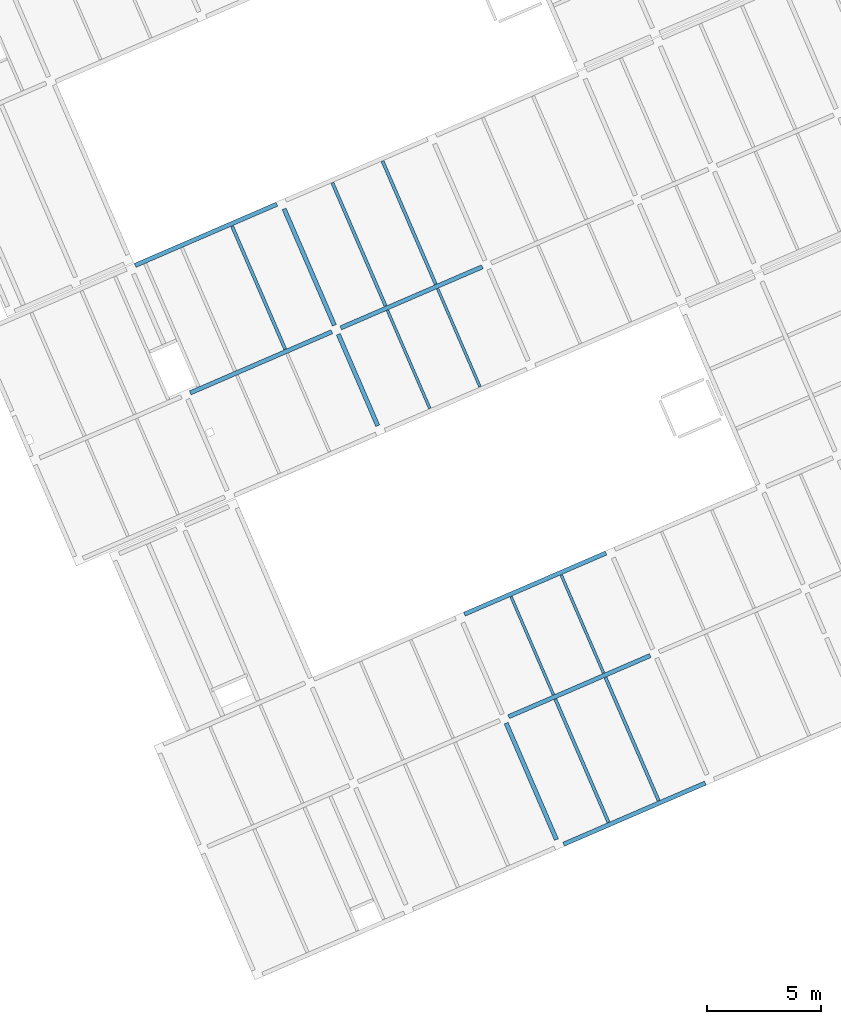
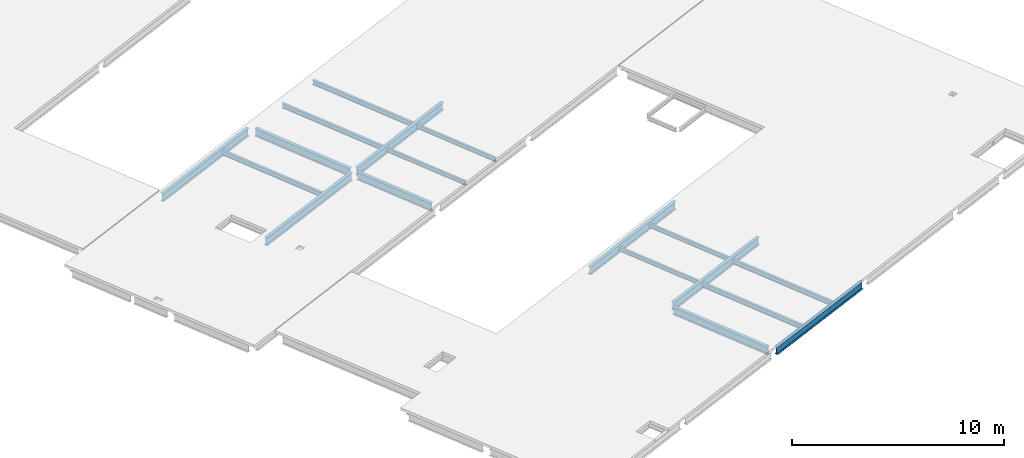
# One storey, part 4 of 15: 18 beams.
"""IFC4 building model written with IfcOpenShell, lengths in metres."""

from ifc_helpers import new_model, entity, si_unit, converted_unit, derived_unit, direction, frame, origin, place, context, subcontext, project, spatial, line, arc, indexed_curve, outline, extrude, source, transform, mapped, material, type_object, type_shapes, element, save


model = new_model("IFC4")

# Units and contexts
model_context = context("Model", 3, precision=1e-05, world=origin(), true_north=direction((6.12323399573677e-17, 1.0)))
body_context = subcontext(model_context, "Body", "Model", "MODEL_VIEW")
ifc_project = project(units=[si_unit("LENGTHUNIT", "METRE"), si_unit("AREAUNIT", "SQUARE_METRE"), si_unit("VOLUMEUNIT", "CUBIC_METRE"), converted_unit("PLANEANGLEUNIT", "DEGREE", entity("IfcPlaneAngleMeasure", 0.0174532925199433), si_unit("PLANEANGLEUNIT", "RADIAN"), dimensions=[0, 0, 0, 0, 0, 0, 0]), si_unit("MASSUNIT", "GRAM", prefix="KILO"), derived_unit("MOMENTOFINERTIAUNIT", [(si_unit("LENGTHUNIT", "METRE"), 4)]), derived_unit("LINEARFORCEUNIT", [(si_unit("MASSUNIT", "GRAM", prefix="KILO"), 1), (si_unit("TIMEUNIT", "SECOND"), -2)]), derived_unit("WARPINGCONSTANTUNIT", [(si_unit("LENGTHUNIT", "METRE"), 6)]), derived_unit("THERMALTRANSMITTANCEUNIT", [(si_unit("MASSUNIT", "GRAM", prefix="KILO"), 1), (si_unit("THERMODYNAMICTEMPERATUREUNIT", "KELVIN"), -1), (si_unit("TIMEUNIT", "SECOND"), -3)]), derived_unit("USERDEFINED", [(si_unit("MASSUNIT", "GRAM", prefix="KILO"), 1), (si_unit("TIMEUNIT", "SECOND"), -2), (si_unit("THERMODYNAMICTEMPERATUREUNIT", "KELVIN"), -1)]), derived_unit("THERMALRESISTANCEUNIT", [(si_unit("MASSUNIT", "GRAM", prefix="KILO"), -1), (si_unit("TIMEUNIT", "SECOND"), 3), (si_unit("THERMODYNAMICTEMPERATUREUNIT", "KELVIN"), 1)])], contexts=[model_context])

# Site, building, storey
site_placement = place(None, origin())
site = spatial("IfcSite", under=ifc_project, at=site_placement, Name="Default", CompositionType="ELEMENT")
building_placement = place(site_placement, frame((12.6613425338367, -82.5732315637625, 317.15), z_axis=(0.0, 0.0, 1.0), x_axis=(-0.396377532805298, 0.918087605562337, 0.0)))
building = spatial("IfcBuilding", under=site, at=building_placement, Name="CESFAM Coyhaique", CompositionType="ELEMENT")
storey_placement = place(building_placement, frame((0.0, 0.0, 8.45000000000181)))
storey = spatial("IfcBuildingStorey", under=building, at=storey_placement, Name="Nivel 3", CompositionType="ELEMENT", Elevation=8.45000000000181)

# Beams
ifc_material = material(Name="Steel, 45-345", Category="Metal")
beam_type_1 = type_object("IfcBeamType", Name="M_W Shapes:W450X190mm", PredefinedType="BEAM", material=ifc_material)
shared_shape_1 = source(origin(), body_context, "Body", "SweptSolid", [
    extrude(outline(indexed_curve([(-0.224999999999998, -0.0950000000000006), (-0.215349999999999, -0.0950000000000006), (-0.215349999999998, -0.0105700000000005), (-0.213109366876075, -0.00516063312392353), (-0.207699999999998, -0.00292000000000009), (0.207700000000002, -0.00292000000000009), (0.213109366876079, -0.00516063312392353), (0.215350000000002, -0.0105700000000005), (0.215350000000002, -0.0950000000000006), (0.225000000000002, -0.0950000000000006), (0.225000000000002, 0.0950000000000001), (0.215350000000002, 0.0950000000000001), (0.215350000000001, 0.01057), (0.213109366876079, 0.00516063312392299), (0.207700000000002, 0.00291999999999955), (-0.207699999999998, 0.00292000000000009), (-0.213109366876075, 0.00516063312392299), (-0.215349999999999, 0.01057), (-0.215349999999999, 0.094999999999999), (-0.224999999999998, 0.094999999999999)], segments=[line(1, 2, 3), arc(3, 4, 5), line(5, 6), arc(6, 7, 8), line(8, 9, 10, 11, 12, 13), arc(13, 14, 15), line(15, 16), arc(16, 17, 18), line(18, 19, 20, 1)], self_intersect=False)), frame((4.38155341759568, 2.8028504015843, 8.07500000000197), z_axis=(1.0, 0.0, 0.0), x_axis=(0.0, 0.0, -1.0)), (0.0, 0.0, 1.0), 5.5746),
])
type_shapes(beam_type_1, [shared_shape_1])
beam_1_placement = place(storey_placement, frame((0.0, 0.0, -8.45000000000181)))
element("IfcBeam", 1, at=beam_1_placement, inside=storey, type_object=beam_type_1, Name="M_W Shapes:W450X190mm", ObjectType="M_W Shapes:W450X190mm", PredefinedType="BEAM", context=body_context, shape_type="MappedRepresentation", body=[
    mapped(shared_shape_1, transform((0.0, 0.0, 0.0), scale=1.0)),
])
beam_type_2 = type_object("IfcBeamType", Name="M_W Shapes:W450X190mm", PredefinedType="BEAM", material=ifc_material)
shared_shape_2 = source(origin(), body_context, "Body", "SweptSolid", [
    extrude(outline(indexed_curve([(-0.0950000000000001, -0.225000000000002), (0.0950000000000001, -0.225000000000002), (0.0950000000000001, -0.215350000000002), (0.0105699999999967, -0.215350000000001), (0.00516063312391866, -0.21310936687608), (0.00291999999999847, -0.207700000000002), (0.00291999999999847, 0.207699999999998), (0.00516063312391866, 0.213109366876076), (0.0105700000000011, 0.215349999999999), (0.0950000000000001, 0.215349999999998), (0.0950000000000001, 0.224999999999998), (-0.0950000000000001, 0.224999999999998), (-0.0950000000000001, 0.215349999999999), (-0.0105700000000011, 0.215349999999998), (-0.00516063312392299, 0.213109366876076), (-0.0029200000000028, 0.207699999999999), (-0.0029200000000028, -0.207700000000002), (-0.00516063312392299, -0.21310936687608), (-0.0105700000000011, -0.215350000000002), (-0.0950000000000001, -0.215350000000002)], segments=[line(1, 2, 3, 4), arc(4, 5, 6), line(6, 7), arc(7, 8, 9), line(9, 10, 11, 12, 13, 14), arc(14, 15, 16), line(16, 17), arc(17, 18, 19), line(19, 20, 1)], self_intersect=False)), frame((28.7688534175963, 3.0155504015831, 8.07500000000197), z_axis=(0.0, 1.0, 0.0), x_axis=(-1.0, 0.0, 0.0)), (0.0, 0.0, 1.0), 6.7746),
])
type_shapes(beam_type_2, [shared_shape_2])
beam_2_placement = place(storey_placement, frame((0.0, 0.0, -8.45000000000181)))
element("IfcBeam", 2, at=beam_2_placement, inside=storey, type_object=beam_type_2, Name="M_W Shapes:W450X190mm", ObjectType="M_W Shapes:W450X190mm", PredefinedType="BEAM", context=body_context, shape_type="MappedRepresentation", body=[
    mapped(shared_shape_2, transform((0.0, 0.0, 0.0), scale=1.0)),
])
beam_type_3 = type_object("IfcBeamType", Name="M_W Shapes:W450X190mm", PredefinedType="BEAM", material=ifc_material)
shared_shape_3 = source(origin(), body_context, "Body", "SweptSolid", [
    extrude(outline(indexed_curve([(-0.0950000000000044, -0.225000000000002), (0.0949999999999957, -0.225000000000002), (0.0949999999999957, -0.215350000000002), (0.0105699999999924, -0.215350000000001), (0.00516063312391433, -0.21310936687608), (0.00291999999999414, -0.207700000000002), (0.00291999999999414, 0.207699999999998), (0.00516063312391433, 0.213109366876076), (0.0105699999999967, 0.215349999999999), (0.0949999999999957, 0.215349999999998), (0.0949999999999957, 0.224999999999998), (-0.0950000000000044, 0.224999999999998), (-0.0950000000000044, 0.215349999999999), (-0.0105700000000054, 0.215349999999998), (-0.00516063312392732, 0.213109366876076), (-0.00292000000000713, 0.207699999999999), (-0.00292000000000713, -0.207700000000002), (-0.00516063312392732, -0.21310936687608), (-0.0105700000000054, -0.215350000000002), (-0.0950000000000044, -0.215350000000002)], segments=[line(1, 2, 3, 4), arc(4, 5, 6), line(6, 7), arc(7, 8, 9), line(9, 10, 11, 12, 13, 14), arc(14, 15, 16), line(16, 17), arc(17, 18, 19), line(19, 20, 1)], self_intersect=False)), frame((34.868853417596, 3.0155504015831, 8.07500000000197), z_axis=(0.0, 1.0, 0.0), x_axis=(-1.0, 0.0, 0.0)), (0.0, 0.0, 1.0), 6.7746),
])
type_shapes(beam_type_3, [shared_shape_3])
beam_3_placement = place(storey_placement, frame((0.0, 0.0, -8.45000000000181)))
element("IfcBeam", 3, at=beam_3_placement, inside=storey, type_object=beam_type_3, Name="M_W Shapes:W450X190mm", ObjectType="M_W Shapes:W450X190mm", PredefinedType="BEAM", context=body_context, shape_type="MappedRepresentation", body=[
    mapped(shared_shape_3, transform((0.0, 0.0, 0.0), scale=1.0)),
])
beam_type_4 = type_object("IfcBeamType", Name="M_W Shapes:W450X190mm", PredefinedType="BEAM", material=ifc_material)
shared_shape_4 = source(origin(), body_context, "Body", "SweptSolid", [
    extrude(outline(indexed_curve([(-0.224999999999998, -0.0950000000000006), (-0.215349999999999, -0.0950000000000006), (-0.215349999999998, -0.0105700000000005), (-0.213109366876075, -0.00516063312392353), (-0.207699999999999, -0.00292000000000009), (0.207700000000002, -0.00292000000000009), (0.213109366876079, -0.00516063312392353), (0.215350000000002, -0.0105700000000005), (0.215350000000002, -0.0950000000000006), (0.225000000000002, -0.0950000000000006), (0.225000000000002, 0.0950000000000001), (0.215350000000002, 0.0950000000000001), (0.215350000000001, 0.01057), (0.213109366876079, 0.00516063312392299), (0.207700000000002, 0.00291999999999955), (-0.207699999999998, 0.00291999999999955), (-0.213109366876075, 0.00516063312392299), (-0.215349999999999, 0.01057), (-0.215349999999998, 0.094999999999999), (-0.224999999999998, 0.0949999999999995)], segments=[line(1, 2, 3), arc(3, 4, 5), line(5, 6), arc(6, 7, 8), line(8, 9, 10, 11, 12, 13), arc(13, 14, 15), line(15, 16), arc(16, 17, 18), line(18, 19, 20, 1)], self_intersect=False)), frame((24.1815534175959, 2.8028504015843, 8.07500000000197), z_axis=(1.0, 0.0, 0.0), x_axis=(0.0, 0.0, -1.0)), (0.0, 0.0, 1.0), 4.3746),
])
type_shapes(beam_type_4, [shared_shape_4])
beam_4_placement = place(storey_placement, frame((0.0, 0.0, -8.45000000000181)))
element("IfcBeam", 4, at=beam_4_placement, inside=storey, type_object=beam_type_4, Name="M_W Shapes:W450X190mm", ObjectType="M_W Shapes:W450X190mm", PredefinedType="BEAM", context=body_context, shape_type="MappedRepresentation", body=[
    mapped(shared_shape_4, transform((0.0, 0.0, 0.0), scale=1.0)),
])
beam_type_5 = type_object("IfcBeamType", Name="M_W Shapes:W450X190mm", PredefinedType="BEAM", material=ifc_material)
shared_shape_5 = source(origin(), body_context, "Body", "SweptSolid", [
    extrude(outline(indexed_curve([(-0.0950000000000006, -0.225000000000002), (0.0950000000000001, -0.225000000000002), (0.0950000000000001, -0.215350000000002), (0.01057, -0.215350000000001), (0.00516063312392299, -0.213109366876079), (0.00291999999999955, -0.207700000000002), (0.00291999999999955, 0.207699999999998), (0.00516063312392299, 0.213109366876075), (0.01057, 0.215349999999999), (0.094999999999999, 0.215349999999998), (0.0949999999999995, 0.224999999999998), (-0.0950000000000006, 0.224999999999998), (-0.0950000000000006, 0.215349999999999), (-0.0105700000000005, 0.215349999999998), (-0.00516063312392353, 0.213109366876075), (-0.00292000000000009, 0.207699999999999), (-0.00292000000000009, -0.207700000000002), (-0.00516063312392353, -0.213109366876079), (-0.0105700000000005, -0.215350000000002), (-0.0950000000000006, -0.215350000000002)], segments=[line(1, 2, 3, 4), arc(4, 5, 6), line(6, 7), arc(7, 8, 9), line(9, 10, 11, 12, 13, 14), arc(14, 15, 16), line(16, 17), arc(17, 18, 19), line(19, 20, 1)], self_intersect=False)), frame((4.06885341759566, -4.18444959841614, 8.07500000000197), z_axis=(0.0, 1.0, 0.0), x_axis=(-1.0, 0.0, 0.0)), (0.0, 0.0, 1.0), 6.7746),
])
type_shapes(beam_type_5, [shared_shape_5])
beam_5_placement = place(storey_placement, frame((0.0, 0.0, -8.45000000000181)))
element("IfcBeam", 5, at=beam_5_placement, inside=storey, type_object=beam_type_5, Name="M_W Shapes:W450X190mm", ObjectType="M_W Shapes:W450X190mm", PredefinedType="BEAM", context=body_context, shape_type="MappedRepresentation", body=[
    mapped(shared_shape_5, transform((0.0, 0.0, 0.0), scale=1.0)),
])
beam_type_6 = type_object("IfcBeamType", Name="M_W Shapes:W450X190mm", PredefinedType="BEAM", material=ifc_material)
shared_shape_6 = source(origin(), body_context, "Body", "SweptSolid", [
    extrude(outline(indexed_curve([(-0.0950000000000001, -0.225000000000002), (0.0950000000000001, -0.225000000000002), (0.0950000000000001, -0.215350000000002), (0.0105700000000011, -0.215350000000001), (0.00516063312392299, -0.213109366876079), (0.00292000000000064, -0.207700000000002), (0.00292000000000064, 0.207699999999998), (0.00516063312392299, 0.213109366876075), (0.0105700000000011, 0.215349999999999), (0.0950000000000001, 0.215349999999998), (0.0950000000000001, 0.224999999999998), (-0.0950000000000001, 0.224999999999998), (-0.0949999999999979, 0.215349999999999), (-0.0105699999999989, 0.215349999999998), (-0.00516063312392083, 0.213109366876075), (-0.00291999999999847, 0.207699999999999), (-0.00291999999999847, -0.207700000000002), (-0.00516063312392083, -0.213109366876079), (-0.0105699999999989, -0.215350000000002), (-0.0950000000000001, -0.215350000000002)], segments=[line(1, 2, 3, 4), arc(4, 5, 6), line(6, 7), arc(7, 8, 9), line(9, 10, 11, 12, 13, 14), arc(14, 15, 16), line(16, 17), arc(17, 18, 19), line(19, 20, 1)], self_intersect=False)), frame((10.1688534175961, -4.18444959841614, 8.07500000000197), z_axis=(0.0, 1.0, 0.0), x_axis=(-1.0, 0.0, 0.0)), (0.0, 0.0, 1.0), 6.7746),
])
type_shapes(beam_type_6, [shared_shape_6])
beam_6_placement = place(storey_placement, frame((0.0, 0.0, -8.45000000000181)))
element("IfcBeam", 6, at=beam_6_placement, inside=storey, type_object=beam_type_6, Name="M_W Shapes:W450X190mm", ObjectType="M_W Shapes:W450X190mm", PredefinedType="BEAM", context=body_context, shape_type="MappedRepresentation", body=[
    mapped(shared_shape_6, transform((0.0, 0.0, 0.0), scale=1.0)),
])
beam_type_7 = type_object("IfcBeamType", Name="M_W Shapes:W450X190mm", PredefinedType="BEAM", material=ifc_material)
shared_shape_7 = source(origin(), body_context, "Body", "SweptSolid", [
    extrude(outline(indexed_curve([(-0.0950000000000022, -0.225000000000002), (0.0949999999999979, -0.225000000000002), (0.0949999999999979, -0.215350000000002), (0.0105699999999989, -0.215350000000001), (0.00516063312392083, -0.213109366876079), (0.00291999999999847, -0.207700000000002), (0.00291999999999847, 0.207699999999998), (0.00516063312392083, 0.213109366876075), (0.0105699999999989, 0.215349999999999), (0.0949999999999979, 0.215349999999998), (0.0949999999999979, 0.224999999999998), (-0.0950000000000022, 0.224999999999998), (-0.0950000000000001, 0.215349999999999), (-0.0105700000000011, 0.215349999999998), (-0.00516063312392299, 0.213109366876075), (-0.00292000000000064, 0.207699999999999), (-0.00292000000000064, -0.207700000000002), (-0.00516063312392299, -0.213109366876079), (-0.0105700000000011, -0.215350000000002), (-0.0950000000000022, -0.215350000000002)], segments=[line(1, 2, 3, 4), arc(4, 5, 6), line(6, 7), arc(7, 8, 9), line(9, 10, 11, 12, 13, 14), arc(14, 15, 16), line(16, 17), arc(17, 18, 19), line(19, 20, 1)], self_intersect=False)), frame((15.0738534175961, -4.18444959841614, 8.07500000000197), z_axis=(0.0, 1.0, 0.0), x_axis=(-1.0, 0.0, 0.0)), (0.0, 0.0, 1.0), 6.7746),
])
type_shapes(beam_type_7, [shared_shape_7])
beam_7_placement = place(storey_placement, frame((0.0, 0.0, -8.45000000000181)))
element("IfcBeam", 7, at=beam_7_placement, inside=storey, type_object=beam_type_7, Name="M_W Shapes:W450X190mm", ObjectType="M_W Shapes:W450X190mm", PredefinedType="BEAM", context=body_context, shape_type="MappedRepresentation", body=[
    mapped(shared_shape_7, transform((0.0, 0.0, 0.0), scale=1.0)),
])
beam_type_8 = type_object("IfcBeamType", Name="M_W Shapes:W450X190mm", PredefinedType="BEAM", material=ifc_material)
shared_shape_8 = source(origin(), body_context, "Body", "SweptSolid", [
    extrude(outline(indexed_curve([(-0.0950000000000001, -0.225000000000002), (0.0950000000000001, -0.225000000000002), (0.0950000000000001, -0.215350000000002), (0.0105699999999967, -0.215350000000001), (0.00516063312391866, -0.21310936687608), (0.00291999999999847, -0.207700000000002), (0.00291999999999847, 0.207699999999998), (0.00516063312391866, 0.213109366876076), (0.0105700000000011, 0.215349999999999), (0.0950000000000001, 0.215349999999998), (0.0950000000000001, 0.224999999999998), (-0.0950000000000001, 0.224999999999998), (-0.0950000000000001, 0.215349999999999), (-0.0105700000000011, 0.215349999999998), (-0.00516063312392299, 0.213109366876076), (-0.0029200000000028, 0.207699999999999), (-0.0029200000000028, -0.207700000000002), (-0.00516063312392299, -0.21310936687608), (-0.0105700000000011, -0.215350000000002), (-0.0950000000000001, -0.215350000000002)], segments=[line(1, 2, 3, 4), arc(4, 5, 6), line(6, 7), arc(7, 8, 9), line(9, 10, 11, 12, 13, 14), arc(14, 15, 16), line(16, 17), arc(17, 18, 19), line(19, 20, 1)], self_intersect=False)), frame((28.7688534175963, -4.18444959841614, 8.07500000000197), z_axis=(0.0, 1.0, 0.0), x_axis=(-1.0, 0.0, 0.0)), (0.0, 0.0, 1.0), 6.7746),
])
type_shapes(beam_type_8, [shared_shape_8])
beam_8_placement = place(storey_placement, frame((0.0, 0.0, -8.45000000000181)))
element("IfcBeam", 8, at=beam_8_placement, inside=storey, type_object=beam_type_8, Name="M_W Shapes:W450X190mm", ObjectType="M_W Shapes:W450X190mm", PredefinedType="BEAM", context=body_context, shape_type="MappedRepresentation", body=[
    mapped(shared_shape_8, transform((0.0, 0.0, 0.0), scale=1.0)),
])
beam_type_9 = type_object("IfcBeamType", Name="M_W Shapes:W450X190mm", PredefinedType="BEAM", material=ifc_material)
shared_shape_9 = source(origin(), body_context, "Body", "SweptSolid", [
    extrude(outline(indexed_curve([(-0.224999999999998, -0.0950000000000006), (-0.215349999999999, -0.0950000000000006), (-0.215349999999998, -0.0105700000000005), (-0.213109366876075, -0.00516063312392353), (-0.207699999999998, -0.00292000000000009), (0.207700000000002, -0.00292000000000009), (0.213109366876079, -0.00516063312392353), (0.215350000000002, -0.0105700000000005), (0.215350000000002, -0.0950000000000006), (0.225000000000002, -0.0950000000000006), (0.225000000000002, 0.0950000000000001), (0.215350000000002, 0.0950000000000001), (0.215350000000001, 0.01057), (0.213109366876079, 0.00516063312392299), (0.207700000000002, 0.00291999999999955), (-0.207699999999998, 0.00292000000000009), (-0.213109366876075, 0.00516063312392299), (-0.215349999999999, 0.01057), (-0.215349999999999, 0.094999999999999), (-0.224999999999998, 0.094999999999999)], segments=[line(1, 2, 3), arc(3, 4, 5), line(5, 6), arc(6, 7, 8), line(8, 9, 10, 11, 12, 13), arc(13, 14, 15), line(15, 16), arc(16, 17, 18), line(18, 19, 20, 1)], self_intersect=False)), frame((28.981553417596, 2.8028504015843, 8.07500000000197), z_axis=(1.0, 0.0, 0.0), x_axis=(0.0, 0.0, -1.0)), (0.0, 0.0, 1.0), 5.5746),
])
type_shapes(beam_type_9, [shared_shape_9])
beam_9_placement = place(storey_placement, frame((0.0, 0.0, -8.45000000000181)))
element("IfcBeam", 9, at=beam_9_placement, inside=storey, type_object=beam_type_9, Name="M_W Shapes:W450X190mm", ObjectType="M_W Shapes:W450X190mm", PredefinedType="BEAM", context=body_context, shape_type="MappedRepresentation", body=[
    mapped(shared_shape_9, transform((0.0, 0.0, 0.0), scale=1.0)),
])
beam_type_10 = type_object("IfcBeamType", Name="M_W Shapes:W270X140mm", PredefinedType="BEAM", material=ifc_material)
shared_shape_10 = source(origin(), body_context, "Body", "SweptSolid", [
    extrude(outline(indexed_curve([(-0.135, -0.0700000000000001), (-0.125350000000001, -0.0700000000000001), (-0.12535, -0.01057), (-0.123109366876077, -0.00516063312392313), (-0.1177, -0.00291999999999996), (0.117699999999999, -0.00291999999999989), (0.123109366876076, -0.00516063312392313), (0.12535, -0.01057), (0.12535, -0.0700000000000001), (0.135, -0.0700000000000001), (0.135, 0.0700000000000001), (0.12535, 0.0700000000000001), (0.125349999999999, 0.0105700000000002), (0.123109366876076, 0.00516063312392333), (0.117699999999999, 0.00292000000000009), (-0.1177, 0.00291999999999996), (-0.123109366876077, 0.00516063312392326), (-0.125350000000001, 0.0105700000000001), (-0.125350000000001, 0.0699999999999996), (-0.135, 0.0699999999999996)], segments=[line(1, 2, 3), arc(3, 4, 5), line(5, 6), arc(6, 7, 8), line(8, 9, 10, 11, 12, 13), arc(13, 14, 15), line(15, 16), arc(16, 17, 18), line(18, 19, 20, 1)], self_intersect=False)), frame((4.17655341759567, 0.402850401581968, 8.16500000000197), z_axis=(1.0, 0.0, 0.0), x_axis=(0.0, 0.0, -1.0)), (0.0, 0.0, 1.0), 5.8846),
])
type_shapes(beam_type_10, [shared_shape_10])
beam_10_placement = place(storey_placement, frame((0.0, 0.0, -8.45000000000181)))
element("IfcBeam", 10, at=beam_10_placement, inside=storey, type_object=beam_type_10, Name="M_W Shapes:W270X140mm", ObjectType="M_W Shapes:W270X140mm", PredefinedType="BEAM", context=body_context, shape_type="MappedRepresentation", body=[
    mapped(shared_shape_10, transform((0.0, 0.0, 0.0), scale=1.0)),
])
beam_type_11 = type_object("IfcBeamType", Name="M_W Shapes:W240X120mm", PredefinedType="BEAM", material=ifc_material)
shared_shape_11 = source(origin(), body_context, "Body", "SweptSolid", [
    extrude(outline(indexed_curve([(-0.119999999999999, -0.0600000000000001), (-0.11035, -0.0600000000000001), (-0.110349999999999, -0.01057), (-0.108109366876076, -0.00516063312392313), (-0.102699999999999, -0.00291999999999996), (0.1027, -0.00291999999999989), (0.108109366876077, -0.00516063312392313), (0.11035, -0.01057), (0.11035, -0.0600000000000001), (0.120000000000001, -0.0600000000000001), (0.120000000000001, 0.0600000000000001), (0.11035, 0.0600000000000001), (0.11035, 0.0105700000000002), (0.108109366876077, 0.00516063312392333), (0.1027, 0.00292000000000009), (-0.102699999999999, 0.00291999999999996), (-0.108109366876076, 0.00516063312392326), (-0.11035, 0.0105700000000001), (-0.11035, 0.0599999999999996), (-0.119999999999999, 0.0599999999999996)], segments=[line(1, 2, 3), arc(3, 4, 5), line(5, 6), arc(6, 7, 8), line(8, 9, 10, 11, 12, 13), arc(13, 14, 15), line(15, 16), arc(16, 17, 18), line(18, 19, 20, 1)], self_intersect=False)), frame((10.2765534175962, 0.402850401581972, 8.18000000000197), z_axis=(1.0, 0.0, 0.0), x_axis=(0.0, 0.0, -1.0)), (0.0, 0.0, 1.0), 4.6896),
])
type_shapes(beam_type_11, [shared_shape_11])
beam_11_placement = place(storey_placement, frame((0.0, 0.0, -8.45000000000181)))
element("IfcBeam", 11, at=beam_11_placement, inside=storey, type_object=beam_type_11, Name="M_W Shapes:W240X120mm", ObjectType="M_W Shapes:W240X120mm", PredefinedType="BEAM", context=body_context, shape_type="MappedRepresentation", body=[
    mapped(shared_shape_11, transform((0.0, 0.0, 0.0), scale=1.0)),
])
beam_type_12 = type_object("IfcBeamType", Name="M_W Shapes:W270X140mm", PredefinedType="BEAM", material=ifc_material)
shared_shape_12 = source(origin(), body_context, "Body", "SweptSolid", [
    extrude(outline(indexed_curve([(-0.135, -0.0700000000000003), (-0.125350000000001, -0.0700000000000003), (-0.125350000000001, -0.0105700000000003), (-0.123109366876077, -0.00516063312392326), (-0.1177, -0.00292000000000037), (0.117699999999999, -0.00292000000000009), (0.123109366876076, -0.00516063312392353), (0.12535, -0.0105700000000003), (0.12535, -0.0700000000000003), (0.135, -0.0700000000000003), (0.135, 0.0699999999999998), (0.12535, 0.0699999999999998), (0.12535, 0.0105699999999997), (0.123109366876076, 0.00516063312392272), (0.117699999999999, 0.00291999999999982), (-0.1177, 0.00291999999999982), (-0.123109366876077, 0.00516063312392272), (-0.125350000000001, 0.0105699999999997), (-0.125350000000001, 0.0699999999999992), (-0.135, 0.0699999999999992)], segments=[line(1, 2, 3), arc(3, 4, 5), line(5, 6), arc(6, 7, 8), line(8, 9, 10, 11, 12, 13), arc(13, 14, 15), line(15, 16), arc(16, 17, 18), line(18, 19, 20, 1)], self_intersect=False)), frame((4.17655341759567, -1.99714959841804, 8.16500000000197), z_axis=(1.0, 0.0, 0.0), x_axis=(0.0, 0.0, -1.0)), (0.0, 0.0, 1.0), 5.8846),
])
type_shapes(beam_type_12, [shared_shape_12])
beam_12_placement = place(storey_placement, frame((0.0, 0.0, -8.45000000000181)))
element("IfcBeam", 12, at=beam_12_placement, inside=storey, type_object=beam_type_12, Name="M_W Shapes:W270X140mm", ObjectType="M_W Shapes:W270X140mm", PredefinedType="BEAM", context=body_context, shape_type="MappedRepresentation", body=[
    mapped(shared_shape_12, transform((0.0, 0.0, 0.0), scale=1.0)),
])
beam_type_13 = type_object("IfcBeamType", Name="M_W Shapes:W240X120mm", PredefinedType="BEAM", material=ifc_material)
shared_shape_13 = source(origin(), body_context, "Body", "SweptSolid", [
    extrude(outline(indexed_curve([(-0.12, -0.0600000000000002), (-0.110350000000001, -0.0600000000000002), (-0.110350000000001, -0.01057), (-0.108109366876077, -0.00516063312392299), (-0.1027, -0.00292000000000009), (0.102699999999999, -0.00291999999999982), (0.108109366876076, -0.00516063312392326), (0.110349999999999, -0.01057), (0.110349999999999, -0.0600000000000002), (0.12, -0.0600000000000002), (0.12, 0.0600000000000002), (0.110349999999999, 0.0600000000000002), (0.11035, 0.01057), (0.108109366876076, 0.00516063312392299), (0.102699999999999, 0.00292000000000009), (-0.1027, 0.00292000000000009), (-0.108109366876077, 0.00516063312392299), (-0.110350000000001, 0.01057), (-0.110350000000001, 0.0599999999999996), (-0.12, 0.0599999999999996)], segments=[line(1, 2, 3), arc(3, 4, 5), line(5, 6), arc(6, 7, 8), line(8, 9, 10, 11, 12, 13), arc(13, 14, 15), line(15, 16), arc(16, 17, 18), line(18, 19, 20, 1)], self_intersect=False)), frame((10.2765534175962, -1.99714959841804, 8.18000000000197), z_axis=(1.0, 0.0, 0.0), x_axis=(0.0, 0.0, -1.0)), (0.0, 0.0, 1.0), 4.6896),
])
type_shapes(beam_type_13, [shared_shape_13])
beam_13_placement = place(storey_placement, frame((0.0, 0.0, -8.45000000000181)))
element("IfcBeam", 13, at=beam_13_placement, inside=storey, type_object=beam_type_13, Name="M_W Shapes:W240X120mm", ObjectType="M_W Shapes:W240X120mm", PredefinedType="BEAM", context=body_context, shape_type="MappedRepresentation", body=[
    mapped(shared_shape_13, transform((0.0, 0.0, 0.0), scale=1.0)),
])
beam_type_14 = type_object("IfcBeamType", Name="M_W Shapes:W270X140mm", PredefinedType="BEAM", material=ifc_material)
shared_shape_14 = source(origin(), body_context, "Body", "SweptSolid", [
    extrude(outline(indexed_curve([(-0.135, -0.0700000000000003), (-0.125350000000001, -0.0700000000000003), (-0.125350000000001, -0.01057), (-0.123109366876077, -0.00516063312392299), (-0.1177, -0.00292000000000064), (0.117699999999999, -0.00291999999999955), (0.123109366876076, -0.00516063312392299), (0.12535, -0.01057), (0.12535, -0.0700000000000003), (0.135, -0.0700000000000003), (0.135, 0.0700000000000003), (0.12535, 0.0700000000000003), (0.12535, 0.01057), (0.123109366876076, 0.00516063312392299), (0.117699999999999, 0.00291999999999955), (-0.1177, 0.00291999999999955), (-0.123109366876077, 0.00516063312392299), (-0.125350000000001, 0.01057), (-0.125350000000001, 0.0699999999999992), (-0.135, 0.0699999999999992)], segments=[line(1, 2, 3), arc(3, 4, 5), line(5, 6), arc(6, 7, 8), line(8, 9, 10, 11, 12, 13), arc(13, 14, 15), line(15, 16), arc(16, 17, 18), line(18, 19, 20, 1)], self_intersect=False)), frame((28.8765534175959, 5.20272984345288, 8.16500000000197), z_axis=(1.0, 0.0, 0.0), x_axis=(0.0, 0.0, -1.0)), (0.0, 0.0, 1.0), 5.8846),
])
type_shapes(beam_type_14, [shared_shape_14])
beam_14_placement = place(storey_placement, frame((0.0, 0.0, -8.45000000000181)))
element("IfcBeam", 14, at=beam_14_placement, inside=storey, type_object=beam_type_14, Name="M_W Shapes:W270X140mm", ObjectType="M_W Shapes:W270X140mm", PredefinedType="BEAM", context=body_context, shape_type="MappedRepresentation", body=[
    mapped(shared_shape_14, transform((0.0, 0.0, 0.0), scale=1.0)),
])
beam_type_15 = type_object("IfcBeamType", Name="M_W Shapes:W270X140mm", PredefinedType="BEAM", material=ifc_material)
shared_shape_15 = source(origin(), body_context, "Body", "SweptSolid", [
    extrude(outline(indexed_curve([(-0.135000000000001, -0.0700000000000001), (-0.125350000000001, -0.0700000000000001), (-0.12535, -0.01057), (-0.123109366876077, -0.0051606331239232), (-0.117700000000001, -0.00291999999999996), (0.117699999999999, -0.00291999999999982), (0.123109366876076, -0.00516063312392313), (0.12535, -0.01057), (0.12535, -0.0700000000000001), (0.135, -0.0700000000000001), (0.135, 0.0700000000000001), (0.12535, 0.0700000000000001), (0.125349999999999, 0.0105700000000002), (0.123109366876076, 0.00516063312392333), (0.117699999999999, 0.00292000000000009), (-0.1177, 0.00292000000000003), (-0.123109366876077, 0.00516063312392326), (-0.125350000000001, 0.01057), (-0.125350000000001, 0.0699999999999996), (-0.135, 0.0699999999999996)], segments=[line(1, 2, 3), arc(3, 4, 5), line(5, 6), arc(6, 7, 8), line(8, 9, 10, 11, 12, 13), arc(13, 14, 15), line(15, 16), arc(16, 17, 18), line(18, 19, 20, 1)], self_intersect=False)), frame((28.8765534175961, 0.402729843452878, 8.16500000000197), z_axis=(1.0, 0.0, 0.0), x_axis=(0.0, 0.0, -1.0)), (0.0, 0.0, 1.0), 5.8896),
])
type_shapes(beam_type_15, [shared_shape_15])
beam_15_placement = place(storey_placement, frame((0.0, 0.0, -8.45000000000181)))
element("IfcBeam", 15, at=beam_15_placement, inside=storey, type_object=beam_type_15, Name="M_W Shapes:W270X140mm", ObjectType="M_W Shapes:W270X140mm", PredefinedType="BEAM", context=body_context, shape_type="MappedRepresentation", body=[
    mapped(shared_shape_15, transform((0.0, 0.0, 0.0), scale=1.0)),
])
beam_type_16 = type_object("IfcBeamType", Name="M_W Shapes:W240X120mm", PredefinedType="BEAM", material=ifc_material)
shared_shape_16 = source(origin(), body_context, "Body", "SweptSolid", [
    extrude(outline(indexed_curve([(-0.119999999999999, -0.0600000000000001), (-0.11035, -0.06), (-0.110349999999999, -0.01057), (-0.108109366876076, -0.00516063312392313), (-0.102699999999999, -0.00291999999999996), (0.1027, -0.00291999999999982), (0.108109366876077, -0.00516063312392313), (0.11035, -0.01057), (0.110350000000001, -0.0600000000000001), (0.120000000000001, -0.06), (0.120000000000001, 0.0600000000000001), (0.11035, 0.0600000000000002), (0.11035, 0.0105700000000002), (0.108109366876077, 0.00516063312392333), (0.102699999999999, 0.00292000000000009), (-0.102699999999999, 0.00292000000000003), (-0.108109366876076, 0.00516063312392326), (-0.11035, 0.0105700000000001), (-0.110349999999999, 0.0599999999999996), (-0.119999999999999, 0.0599999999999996)], segments=[line(1, 2, 3), arc(3, 4, 5), line(5, 6), arc(6, 7, 8), line(8, 9, 10, 11, 12, 13), arc(13, 14, 15), line(15, 16), arc(16, 17, 18), line(18, 19, 20, 1)], self_intersect=False)), frame((23.9715534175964, 0.402729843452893, 8.18000000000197), z_axis=(1.0, 0.0, 0.0), x_axis=(0.0, 0.0, -1.0)), (0.0, 0.0, 1.0), 4.6896),
])
type_shapes(beam_type_16, [shared_shape_16])
beam_16_placement = place(storey_placement, frame((0.0, 0.0, -8.45000000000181)))
element("IfcBeam", 16, at=beam_16_placement, inside=storey, type_object=beam_type_16, Name="M_W Shapes:W240X120mm", ObjectType="M_W Shapes:W240X120mm", PredefinedType="BEAM", context=body_context, shape_type="MappedRepresentation", body=[
    mapped(shared_shape_16, transform((0.0, 0.0, 0.0), scale=1.0)),
])
beam_type_17 = type_object("IfcBeamType", Name="M_W Shapes:W270X140mm", PredefinedType="BEAM", material=ifc_material)
shared_shape_17 = source(origin(), body_context, "Body", "SweptSolid", [
    extrude(outline(indexed_curve([(-0.135000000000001, -0.0699999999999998), (-0.125350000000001, -0.0700000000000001), (-0.125350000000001, -0.0105699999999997), (-0.123109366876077, -0.00516063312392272), (-0.117700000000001, -0.00291999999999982), (0.117699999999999, -0.00291999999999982), (0.123109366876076, -0.00516063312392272), (0.12535, -0.0105699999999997), (0.12535, -0.0699999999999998), (0.135, -0.0699999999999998), (0.135, 0.0700000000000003), (0.12535, 0.0700000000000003), (0.12535, 0.0105700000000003), (0.123109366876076, 0.00516063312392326), (0.117699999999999, 0.00292000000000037), (-0.1177, 0.00292000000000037), (-0.123109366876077, 0.00516063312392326), (-0.125350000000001, 0.0105700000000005), (-0.125350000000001, 0.0699999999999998), (-0.135, 0.0699999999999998)], segments=[line(1, 2, 3), arc(3, 4, 5), line(5, 6), arc(6, 7, 8), line(8, 9, 10, 11, 12, 13), arc(13, 14, 15), line(15, 16), arc(16, 17, 18), line(18, 19, 20, 1)], self_intersect=False)), frame((28.8765534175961, -1.99727015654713, 8.16500000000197), z_axis=(1.0, 0.0, 0.0), x_axis=(0.0, 0.0, -1.0)), (0.0, 0.0, 1.0), 5.8896),
])
type_shapes(beam_type_17, [shared_shape_17])
beam_17_placement = place(storey_placement, frame((0.0, 0.0, -8.45000000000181)))
element("IfcBeam", 17, at=beam_17_placement, inside=storey, type_object=beam_type_17, Name="M_W Shapes:W270X140mm", ObjectType="M_W Shapes:W270X140mm", PredefinedType="BEAM", context=body_context, shape_type="MappedRepresentation", body=[
    mapped(shared_shape_17, transform((0.0, 0.0, 0.0), scale=1.0)),
])
beam_type_18 = type_object("IfcBeamType", Name="M_W Shapes:W240X120mm", PredefinedType="BEAM", material=ifc_material)
shared_shape_18 = source(origin(), body_context, "Body", "SweptSolid", [
    extrude(outline(indexed_curve([(-0.12, -0.0600000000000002), (-0.110350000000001, -0.0600000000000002), (-0.110350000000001, -0.01057), (-0.108109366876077, -0.00516063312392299), (-0.1027, -0.00292000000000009), (0.102699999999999, -0.00292000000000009), (0.108109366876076, -0.00516063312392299), (0.110349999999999, -0.0105700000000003), (0.11035, -0.0600000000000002), (0.12, -0.0600000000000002), (0.12, 0.0600000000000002), (0.110349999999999, 0.0599999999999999), (0.11035, 0.01057), (0.108109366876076, 0.00516063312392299), (0.102699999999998, 0.00292000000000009), (-0.1027, 0.00292000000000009), (-0.108109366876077, 0.00516063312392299), (-0.110350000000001, 0.01057), (-0.11035, 0.0599999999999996), (-0.12, 0.0599999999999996)], segments=[line(1, 2, 3), arc(3, 4, 5), line(5, 6), arc(6, 7, 8), line(8, 9, 10, 11, 12, 13), arc(13, 14, 15), line(15, 16), arc(16, 17, 18), line(18, 19, 20, 1)], self_intersect=False)), frame((23.9715534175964, -1.99727015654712, 8.18000000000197), z_axis=(1.0, 0.0, 0.0), x_axis=(0.0, 0.0, -1.0)), (0.0, 0.0, 1.0), 4.6896),
])
type_shapes(beam_type_18, [shared_shape_18])
beam_18_placement = place(storey_placement, frame((0.0, 0.0, -8.45000000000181)))
element("IfcBeam", 18, at=beam_18_placement, inside=storey, type_object=beam_type_18, Name="M_W Shapes:W240X120mm", ObjectType="M_W Shapes:W240X120mm", PredefinedType="BEAM", context=body_context, shape_type="MappedRepresentation", body=[
    mapped(shared_shape_18, transform((0.0, 0.0, 0.0), scale=1.0)),
])

save(model, "model.ifc")
